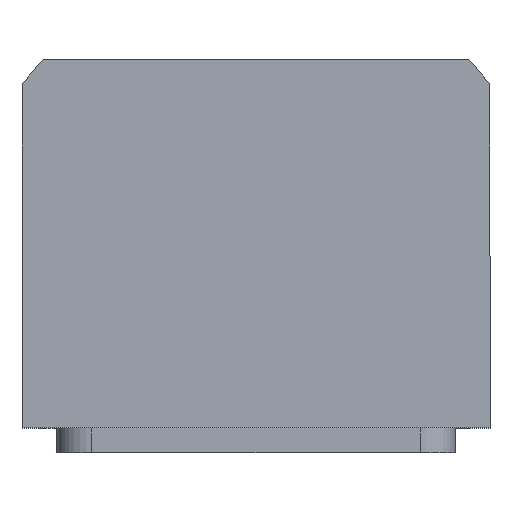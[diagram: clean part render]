
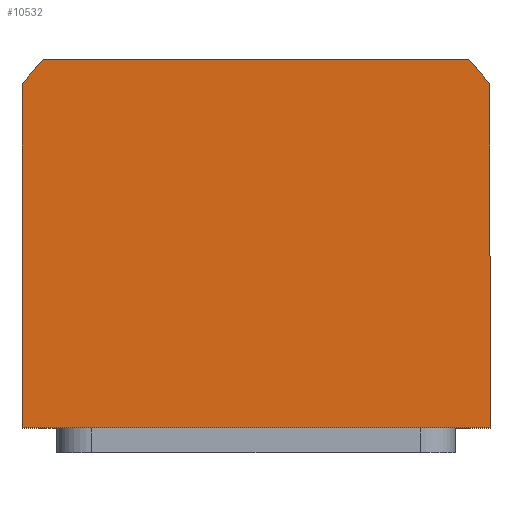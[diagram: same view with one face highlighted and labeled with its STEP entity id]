
A CAD part, top view. The second image highlights one B-rep face of the part: STEP entity #10532.
In plain terms, the highlighted planar face has unit normal (0, 0, 1).
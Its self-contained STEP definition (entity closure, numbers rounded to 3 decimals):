
#142 = VERTEX_POINT ( 'NONE', #10945 ) ;
#219 = EDGE_CURVE ( 'NONE', #8748, #4923, #5111, .T. ) ;
#752 = CARTESIAN_POINT ( 'NONE',  ( -47., -34., 42.5 ) ) ;
#999 = CARTESIAN_POINT ( 'NONE',  ( -42.688, 40., 42.5 ) ) ;
#1149 = ORIENTED_EDGE ( 'NONE', *, *, #219, .T. ) ;
#1170 = CARTESIAN_POINT ( 'NONE',  ( 47., -34., 42.5 ) ) ;
#2057 = VERTEX_POINT ( 'NONE', #7898 ) ;
#2166 = VECTOR ( 'NONE', #9461, 1000. ) ;
#2170 = DIRECTION ( 'NONE',  ( 1., 0., 0. ) ) ;
#2206 = EDGE_CURVE ( 'NONE', #8440, #4617, #4582, .T. ) ;
#2299 = VECTOR ( 'NONE', #2969, 1000. ) ;
#2341 = EDGE_CURVE ( 'NONE', #4617, #2057, #5904, .T. ) ;
#2366 = CARTESIAN_POINT ( 'NONE',  ( 0., 0., 42.5 ) ) ;
#2484 = EDGE_CURVE ( 'NONE', #142, #8748, #8885, .T. ) ;
#2625 = EDGE_CURVE ( 'NONE', #4923, #8440, #3643, .T. ) ;
#2776 = ORIENTED_EDGE ( 'NONE', *, *, #2625, .T. ) ;
#2838 = ORIENTED_EDGE ( 'NONE', *, *, #2206, .T. ) ;
#2969 = DIRECTION ( 'NONE',  ( 1., 0., 0. ) ) ;
#3115 = AXIS2_PLACEMENT_3D ( 'NONE', #5246, #8758, #9621 ) ;
#3621 = AXIS2_PLACEMENT_3D ( 'NONE', #3906, #9015, #2170 ) ;
#3643 = LINE ( 'NONE', #4279, #9031 ) ;
#3906 = CARTESIAN_POINT ( 'NONE',  ( 0., 0., 42.5 ) ) ;
#4132 = DIRECTION ( 'NONE',  ( 0., 1., 0. ) ) ;
#4279 = CARTESIAN_POINT ( 'NONE',  ( -47., -34., 42.5 ) ) ;
#4582 = LINE ( 'NONE', #1170, #2299 ) ;
#4617 = VERTEX_POINT ( 'NONE', #9366 ) ;
#4638 = CARTESIAN_POINT ( 'NONE',  ( -47., 34.832, 42.5 ) ) ;
#4668 = ORIENTED_EDGE ( 'NONE', *, *, #2341, .T. ) ;
#4923 = VERTEX_POINT ( 'NONE', #4638 ) ;
#5111 = CIRCLE ( 'NONE', #8367, 58.5 ) ;
#5246 = CARTESIAN_POINT ( 'NONE',  ( 0., 0., 42.5 ) ) ;
#5767 = DIRECTION ( 'NONE',  ( 0., 0., 1. ) ) ;
#5904 = LINE ( 'NONE', #10870, #9690 ) ;
#6618 = DIRECTION ( 'NONE',  ( 1., 0., 0. ) ) ;
#6835 = CARTESIAN_POINT ( 'NONE',  ( -42.688, 40., 42.5 ) ) ;
#7132 = ORIENTED_EDGE ( 'NONE', *, *, #9635, .T. ) ;
#7897 = ORIENTED_EDGE ( 'NONE', *, *, #2484, .T. ) ;
#7898 = CARTESIAN_POINT ( 'NONE',  ( 47., 34.832, 42.5 ) ) ;
#8367 = AXIS2_PLACEMENT_3D ( 'NONE', #2366, #5767, #6618 ) ;
#8440 = VERTEX_POINT ( 'NONE', #752 ) ;
#8443 = FACE_OUTER_BOUND ( 'NONE', #10464, .T. ) ;
#8522 = CIRCLE ( 'NONE', #3621, 58.5 ) ;
#8748 = VERTEX_POINT ( 'NONE', #999 ) ;
#8758 = DIRECTION ( 'NONE',  ( 0., 0., 1. ) ) ;
#8885 = LINE ( 'NONE', #6835, #2166 ) ;
#9015 = DIRECTION ( 'NONE',  ( 0., 0., 1. ) ) ;
#9031 = VECTOR ( 'NONE', #9347, 1000. ) ;
#9347 = DIRECTION ( 'NONE',  ( 0., -1., 0. ) ) ;
#9366 = CARTESIAN_POINT ( 'NONE',  ( 47., -34., 42.5 ) ) ;
#9461 = DIRECTION ( 'NONE',  ( -1., 0., 0. ) ) ;
#9621 = DIRECTION ( 'NONE',  ( 1., 0., 0. ) ) ;
#9635 = EDGE_CURVE ( 'NONE', #2057, #142, #8522, .T. ) ;
#9690 = VECTOR ( 'NONE', #4132, 1000. ) ;
#10388 = PLANE ( 'NONE',  #3115 ) ;
#10464 = EDGE_LOOP ( 'NONE', ( #2838, #4668, #7132, #7897, #1149, #2776 ) ) ;
#10532 = ADVANCED_FACE ( 'NONE', ( #8443 ), #10388, .T. ) ;
#10870 = CARTESIAN_POINT ( 'NONE',  ( 47., 34.832, 42.5 ) ) ;
#10945 = CARTESIAN_POINT ( 'NONE',  ( 42.688, 40., 42.5 ) ) ;
